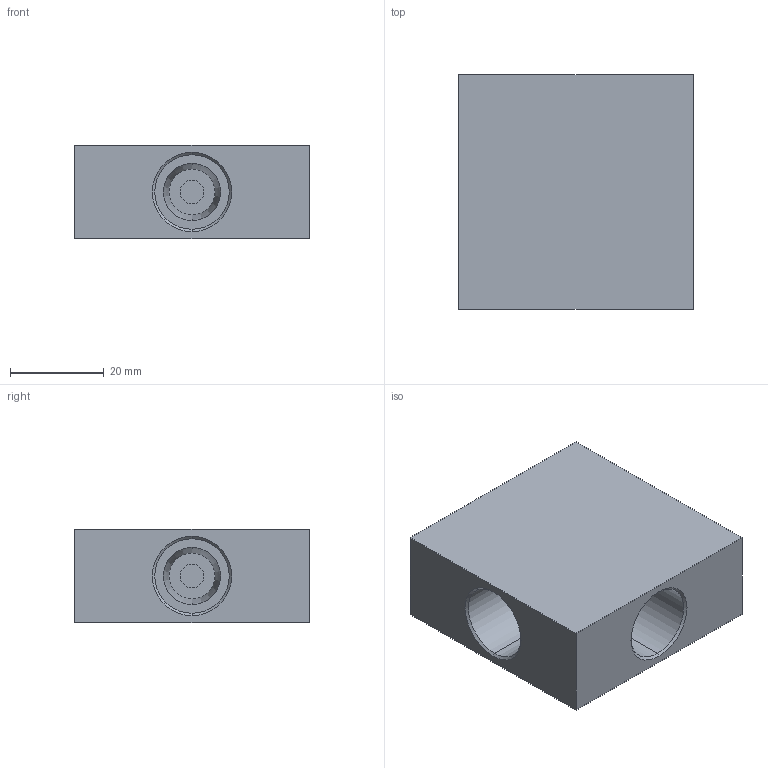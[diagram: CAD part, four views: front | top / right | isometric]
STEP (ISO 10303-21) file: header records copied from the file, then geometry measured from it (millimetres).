
FILE_DESCRIPTION (( 'STEP AP203' ), '1' );
FILE_NAME ('FT15CS06.STEP', '2026-06-26T00:47:56', ( 'USER' ), ( '' ), 'SwSTEP 2.0', 'SolidWorks 2023', '' );
FILE_SCHEMA (( 'CONFIG_CONTROL_DESIGN' ));
Length unit declared in the file: millimetre
Products named in the file (1): FT15CS06
Bounding box: 50 x 50 x 20 mm (x, y, z)
Volume: 37680.9 mm3; surface area: 12323.3 mm2
Topology: 1 solids, 1 shells, 58 faces, 116 edges, 72 vertices
Faces by surface type: cylinder 24, plane 18, cone 16
Entity records: 1593 total; most frequent: DIRECTION 298, CARTESIAN_POINT 247, ORIENTED_EDGE 232, AXIS2_PLACEMENT_3D 123, EDGE_CURVE 116, VERTEX_POINT 72, EDGE_LOOP 70, CIRCLE 64
